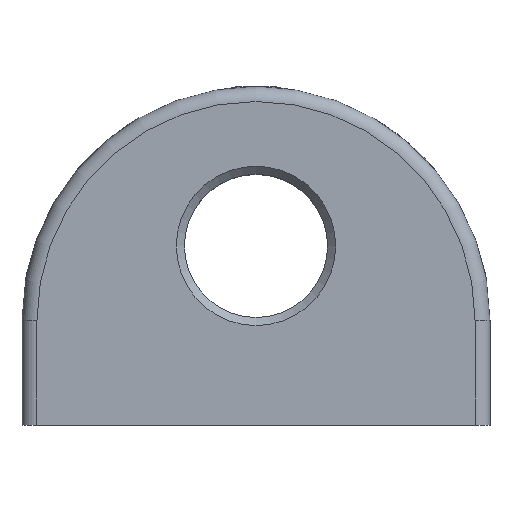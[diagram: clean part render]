
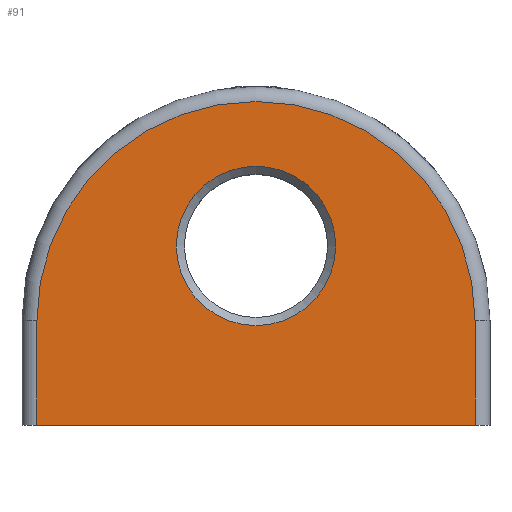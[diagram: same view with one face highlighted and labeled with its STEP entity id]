
A CAD part, top view. The second image highlights one B-rep face of the part: STEP entity #91.
In plain terms, the highlighted planar face has unit normal (0, 0, 1).
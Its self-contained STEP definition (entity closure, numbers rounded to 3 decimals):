
#91 = ADVANCED_FACE( '', ( #171, #172 ), #173, .F. );
#171 = FACE_BOUND( '', #308, .T. );
#172 = FACE_OUTER_BOUND( '', #309, .T. );
#173 = PLANE( '', #310 );
#308 = EDGE_LOOP( '', ( #513 ) );
#309 = EDGE_LOOP( '', ( #514, #515, #516, #517 ) );
#310 = AXIS2_PLACEMENT_3D( '', #518, #519, #520 );
#513 = ORIENTED_EDGE( '', *, *, #799, .T. );
#514 = ORIENTED_EDGE( '', *, *, #836, .F. );
#515 = ORIENTED_EDGE( '', *, *, #806, .F. );
#516 = ORIENTED_EDGE( '', *, *, #837, .T. );
#517 = ORIENTED_EDGE( '', *, *, #838, .T. );
#518 = CARTESIAN_POINT( '', ( -22., 10.5, 7. ) );
#519 = DIRECTION( '', ( 0., 0., -1. ) );
#520 = DIRECTION( '', ( -1., 0., 0. ) );
#799 = EDGE_CURVE( '', #916, #916, #917, .T. );
#806 = EDGE_CURVE( '', #929, #931, #932, .T. );
#836 = EDGE_CURVE( '', #931, #984, #985, .T. );
#837 = EDGE_CURVE( '', #929, #986, #987, .T. );
#838 = EDGE_CURVE( '', #986, #984, #988, .T. );
#916 = VERTEX_POINT( '', #1232 );
#917 = CIRCLE( '', #1233, 8. );
#929 = VERTEX_POINT( '', #1245 );
#931 = VERTEX_POINT( '', #1247 );
#932 = CIRCLE( '', #1248, 22. );
#984 = VERTEX_POINT( '', #1357 );
#985 = LINE( '', #1358, #1359 );
#986 = VERTEX_POINT( '', #1360 );
#987 = LINE( '', #1361, #1362 );
#988 = LINE( '', #1363, #1364 );
#1232 = CARTESIAN_POINT( '', ( -8., 18., 7. ) );
#1233 = AXIS2_PLACEMENT_3D( '', #1571, #1572, #1573 );
#1245 = CARTESIAN_POINT( '', ( -22., 10.5, 7. ) );
#1247 = CARTESIAN_POINT( '', ( 22., 10.5, 7. ) );
#1248 = AXIS2_PLACEMENT_3D( '', #1592, #1593, #1594 );
#1357 = CARTESIAN_POINT( '', ( 22., 0., 7. ) );
#1358 = CARTESIAN_POINT( '', ( 22., 10.5, 7. ) );
#1359 = VECTOR( '', #1651, 1000. );
#1360 = CARTESIAN_POINT( '', ( -22., 0., 7. ) );
#1361 = CARTESIAN_POINT( '', ( -22., 10.5, 7. ) );
#1362 = VECTOR( '', #1652, 1000. );
#1363 = CARTESIAN_POINT( '', ( -22., 0., 7. ) );
#1364 = VECTOR( '', #1653, 1000. );
#1571 = CARTESIAN_POINT( '', ( 0., 18., 7. ) );
#1572 = DIRECTION( '', ( 0., 0., -1. ) );
#1573 = DIRECTION( '', ( -1., 0., 0. ) );
#1592 = CARTESIAN_POINT( '', ( 0., 10.5, 7. ) );
#1593 = DIRECTION( '', ( 0., 0., -1. ) );
#1594 = DIRECTION( '', ( -1., 0., 0. ) );
#1651 = DIRECTION( '', ( 0., -1., 0. ) );
#1652 = DIRECTION( '', ( 0., -1., 0. ) );
#1653 = DIRECTION( '', ( 1., 0., 0. ) );
